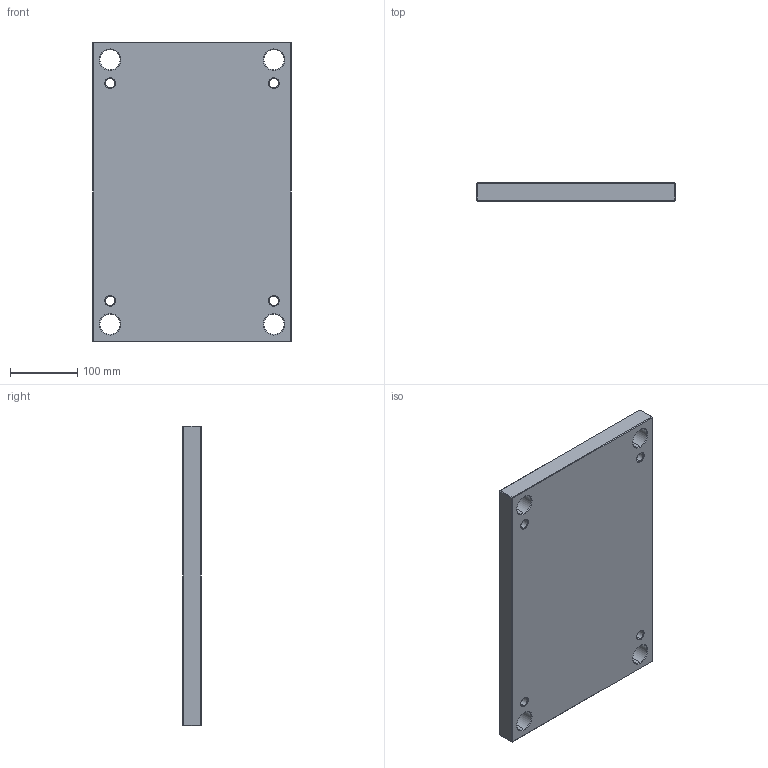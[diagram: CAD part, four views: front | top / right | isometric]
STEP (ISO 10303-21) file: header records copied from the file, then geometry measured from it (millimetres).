
FILE_DESCRIPTION (( 'STEP AP214' ), '1' );
FILE_NAME ('PBAS-EU-296x446x27.STEP', '2020-03-23T15:17:40', ( 'August' ), ( '' ), 'SwSTEP 2.0', 'SolidWorks 2018', '' );
FILE_SCHEMA (( 'AUTOMOTIVE_DESIGN' ));
Length unit declared in the file: millimetre
Products named in the file (1): PBAS-EU-296x446x27
Bounding box: 296 x 27 x 446 mm (x, y, z)
Volume: 3460353.6 mm3; surface area: 310722 mm2
Topology: 1 solids, 1 shells, 86 faces, 184 edges, 104 vertices
Faces by surface type: cone 32, plane 30, cylinder 24
Entity records: 2346 total; most frequent: DIRECTION 438, CARTESIAN_POINT 375, ORIENTED_EDGE 368, EDGE_CURVE 184, AXIS2_PLACEMENT_3D 167, EDGE_LOOP 106, VERTEX_POINT 104, VECTOR 104
